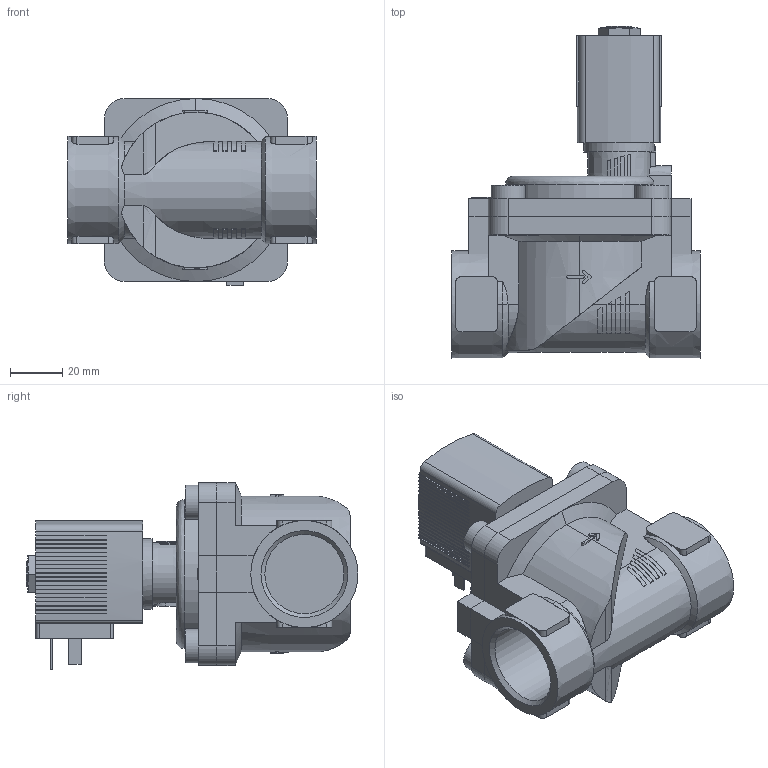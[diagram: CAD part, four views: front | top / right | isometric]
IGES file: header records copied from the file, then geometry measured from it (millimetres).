
Start section: Data from Parasolid IGES Translator 26.0.171, Copyright(c) 2006 Siemens PLM Software. All Rights Reserved.
Global section: file name: 6281-355297-2_2-Way_Solenoid_Valve__Servo-assisted__General_Purpose.igs; native system: By Siemens PLM Incorporated; preprocessor: XPlus GENERIC/IGES 26.0.171; author: Noname; organization: Noname; date: 20240522.232139; units: millimetre
Bounding box: 95 x 127 x 71.5 mm (x, y, z)
Surface area: 55609.8 mm2 (no closed solid volume)
Topology: 0 solids, 0 shells, 551 faces, 3092 edges, 3073 vertices
Faces by surface type: extrusion 433, revolution 118
